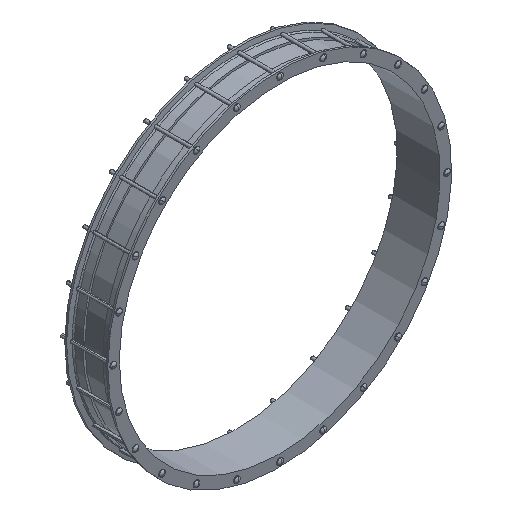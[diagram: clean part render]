
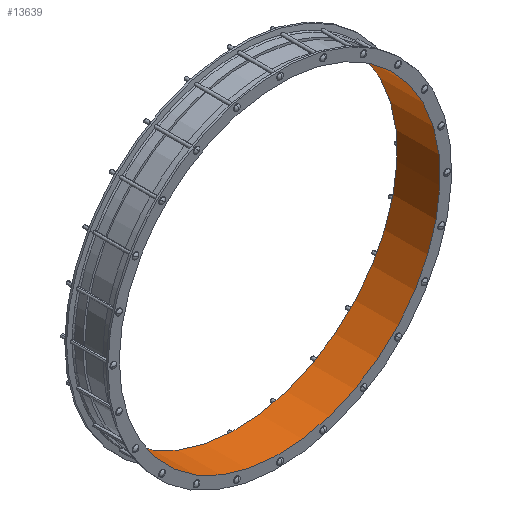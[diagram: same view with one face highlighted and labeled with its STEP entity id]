
A CAD part, isometric view. The second image highlights one B-rep face of the part: STEP entity #13639.
In plain terms, the highlighted cylindrical face has radius 835.75 mm (diameter 1671.5 mm), a partial arc.
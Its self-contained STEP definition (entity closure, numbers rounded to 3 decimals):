
#339=CARTESIAN_POINT('',(0.,112.,0.));
#340=DIRECTION('',(0.,1.,0.));
#341=DIRECTION('',(-0.707,0.,0.707));
#342=AXIS2_PLACEMENT_3D('',#339,#340,#341);
#589=DIRECTION('',(0.,1.,0.));
#590=VECTOR('',#589,224.);
#591=CARTESIAN_POINT('',(-723.781,-112.,417.875));
#592=LINE('',#591,#590);
#593=DIRECTION('',(0.,1.,0.));
#594=VECTOR('',#593,224.);
#595=CARTESIAN_POINT('',(-590.964,-112.,590.964));
#596=LINE('',#595,#594);
#597=CARTESIAN_POINT('',(0.,-112.,0.));
#598=DIRECTION('',(0.,1.,0.));
#599=DIRECTION('',(-0.707,0.,0.707));
#600=AXIS2_PLACEMENT_3D('',#597,#598,#599);
#13057=CARTESIAN_POINT('',(-723.781,-112.,417.875));
#13058=CARTESIAN_POINT('',(-723.781,112.,417.875));
#13059=VERTEX_POINT('',#13057);
#13060=VERTEX_POINT('',#13058);
#13099=CARTESIAN_POINT('',(-590.964,-112.,590.964));
#13100=CARTESIAN_POINT('',(-590.964,112.,590.964));
#13101=VERTEX_POINT('',#13099);
#13102=VERTEX_POINT('',#13100);
#13625=CARTESIAN_POINT('',(0.,-123.2,0.));
#13626=DIRECTION('',(0.,1.,0.));
#13627=DIRECTION('',(0.866,0.,0.5));
#13628=AXIS2_PLACEMENT_3D('',#13625,#13626,#13627);
#13629=CYLINDRICAL_SURFACE('',#13628,835.75);
#13631=ORIENTED_EDGE('',*,*,#13630,.T.);
#13632=ORIENTED_EDGE('',*,*,#13595,.F.);
#13634=ORIENTED_EDGE('',*,*,#13633,.F.);
#13636=ORIENTED_EDGE('',*,*,#13635,.T.);
#13637=EDGE_LOOP('',(#13631,#13632,#13634,#13636));
#13638=FACE_OUTER_BOUND('',#13637,.F.);
#13639=ADVANCED_FACE('',(#13638),#13629,.F.);
#343=CIRCLE('',#342,835.75);
#601=CIRCLE('',#600,835.75);
#13595=EDGE_CURVE('',#13102,#13060,#343,.T.);
#13630=EDGE_CURVE('',#13059,#13060,#592,.T.);
#13633=EDGE_CURVE('',#13101,#13102,#596,.T.);
#13635=EDGE_CURVE('',#13101,#13059,#601,.T.);
